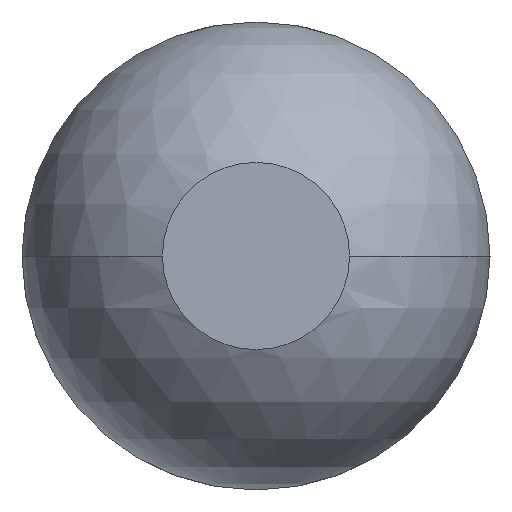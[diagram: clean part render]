
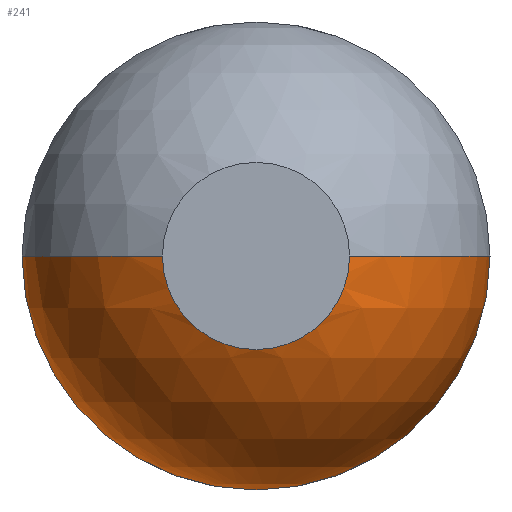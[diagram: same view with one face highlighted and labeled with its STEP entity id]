
A CAD part, left-side view. The second image highlights one B-rep face of the part: STEP entity #241.
In plain terms, the highlighted spherical face has radius 0.254 mm.
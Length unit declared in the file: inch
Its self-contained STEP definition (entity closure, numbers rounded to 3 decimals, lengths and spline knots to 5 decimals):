
#9 = CARTESIAN_POINT ( 'NONE',  ( 0., 0., 0. ) ) ;
#28 = CIRCLE ( 'NONE', #630, 0.01 ) ;
#45 = DIRECTION ( 'NONE',  ( 0., 1., 0. ) ) ;
#50 = CARTESIAN_POINT ( 'NONE',  ( 0.00917, 0., 0. ) ) ;
#51 = DIRECTION ( 'NONE',  ( -1., 0., 0. ) ) ;
#53 = VERTEX_POINT ( 'NONE', #628 ) ;
#64 = CIRCLE ( 'NONE', #660, 0.01 ) ;
#136 = DIRECTION ( 'NONE',  ( 0., 0., 1. ) ) ;
#155 = DIRECTION ( 'NONE',  ( 0., 0., 1. ) ) ;
#186 = ORIENTED_EDGE ( 'NONE', *, *, #225, .T. ) ;
#225 = EDGE_CURVE ( 'NONE', #308, #639, #238, .T. ) ;
#238 = CIRCLE ( 'NONE', #450, 0.01 ) ;
#241 = ADVANCED_FACE ( 'NONE', ( #792 ), #961, .T. ) ;
#259 = ORIENTED_EDGE ( 'NONE', *, *, #818, .T. ) ;
#288 = DIRECTION ( 'NONE',  ( 0., 1., 0. ) ) ;
#297 = CARTESIAN_POINT ( 'NONE',  ( 0.00917, 0., 0. ) ) ;
#308 = VERTEX_POINT ( 'NONE', #712 ) ;
#341 = CARTESIAN_POINT ( 'NONE',  ( 0.00917, -0.01, 0. ) ) ;
#353 = ORIENTED_EDGE ( 'NONE', *, *, #783, .T. ) ;
#393 = DIRECTION ( 'NONE',  ( 0., 0., -1. ) ) ;
#400 = DIRECTION ( 'NONE',  ( -1., 0., 0. ) ) ;
#424 = CARTESIAN_POINT ( 'NONE',  ( 0.00917, 0., 0. ) ) ;
#450 = AXIS2_PLACEMENT_3D ( 'NONE', #297, #51, #136 ) ;
#475 = AXIS2_PLACEMENT_3D ( 'NONE', #50, #700, #45 ) ;
#512 = ORIENTED_EDGE ( 'NONE', *, *, #903, .F. ) ;
#529 = DIRECTION ( 'NONE',  ( 0., 0., 1. ) ) ;
#617 = EDGE_CURVE ( 'NONE', #654, #53, #28, .T. ) ;
#628 = CARTESIAN_POINT ( 'NONE',  ( 0., 0.004, 0. ) ) ;
#630 = AXIS2_PLACEMENT_3D ( 'NONE', #424, #529, #677 ) ;
#639 = VERTEX_POINT ( 'NONE', #341 ) ;
#654 = VERTEX_POINT ( 'NONE', #704 ) ;
#660 = AXIS2_PLACEMENT_3D ( 'NONE', #890, #400, #155 ) ;
#677 = DIRECTION ( 'NONE',  ( 1., 0., 0. ) ) ;
#681 = VERTEX_POINT ( 'NONE', #857 ) ;
#700 = DIRECTION ( 'NONE',  ( 0., 0., -1. ) ) ;
#701 = CARTESIAN_POINT ( 'NONE',  ( 0.00917, 0., 0. ) ) ;
#704 = CARTESIAN_POINT ( 'NONE',  ( 0.00917, 0.01, 0. ) ) ;
#712 = CARTESIAN_POINT ( 'NONE',  ( 0.00917, 0., -0.01 ) ) ;
#714 = CIRCLE ( 'NONE', #475, 0.01 ) ;
#783 = EDGE_CURVE ( 'NONE', #639, #681, #714, .T. ) ;
#792 = FACE_OUTER_BOUND ( 'NONE', #821, .T. ) ;
#818 = EDGE_CURVE ( 'NONE', #654, #308, #64, .T. ) ;
#821 = EDGE_LOOP ( 'NONE', ( #186, #353, #512, #916, #259 ) ) ;
#857 = CARTESIAN_POINT ( 'NONE',  ( 0., -0.004, 0. ) ) ;
#859 = AXIS2_PLACEMENT_3D ( 'NONE', #701, #393, #288 ) ;
#890 = CARTESIAN_POINT ( 'NONE',  ( 0.00917, 0., 0. ) ) ;
#903 = EDGE_CURVE ( 'NONE', #53, #681, #966, .T. ) ;
#916 = ORIENTED_EDGE ( 'NONE', *, *, #617, .F. ) ;
#961 = SPHERICAL_SURFACE ( 'NONE', #859, 0.01 ) ;
#966 = CIRCLE ( 'NONE', #1047, 0.004 ) ;
#984 = DIRECTION ( 'NONE',  ( 0., 0., 1. ) ) ;
#1040 = DIRECTION ( 'NONE',  ( -1., 0., 0. ) ) ;
#1047 = AXIS2_PLACEMENT_3D ( 'NONE', #9, #1040, #984 ) ;
